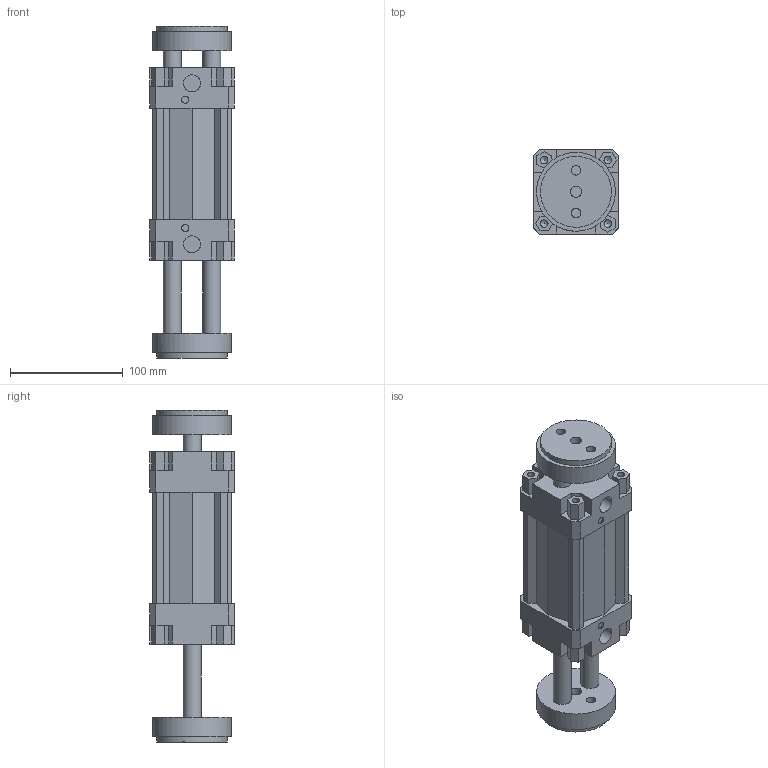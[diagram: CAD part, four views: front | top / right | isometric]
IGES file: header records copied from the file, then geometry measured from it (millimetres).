
Global section: file name: 132#_063_0050_06; native system: Autodesk Inventor 2014; preprocessor: unknown; author: A. Manieri; date: 20161006.155906; units: millimetre
Bounding box: 75 x 75 x 295 mm (x, y, z)
Volume: 844625.5 mm3; surface area: 168156.1 mm2
Topology: 2 solids, 2 shells, 190 faces, 518 edges, 354 vertices
Faces by surface type: bspline 190
